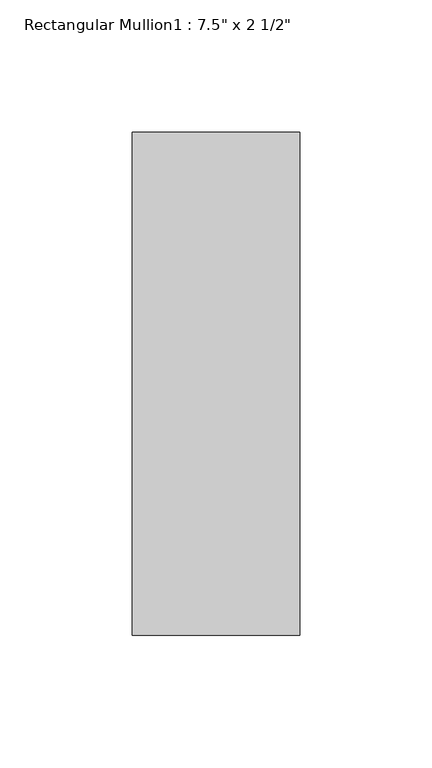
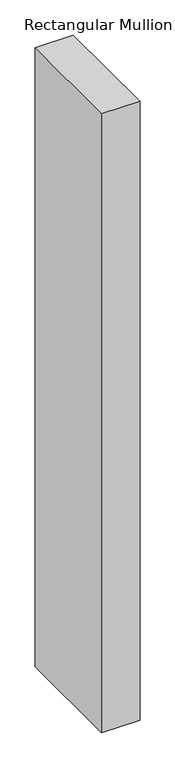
"""IFC4 building model written with IfcOpenShell, lengths in millimetres: member geometry."""

from ifc_helpers import new_model, si_unit, frame, origin, place, context, project, spatial, polyline, outline, extrude, source, transform, mapped, element, save


def member_7fc38162(model_context):
    return source(origin(), model_context, "Body", "SweptSolid", [
        extrude(outline(polyline([(-63.5, 165.1), (0.0, 165.1), (0.0, -25.4), (-63.5, -25.4), (-63.5, 165.1)])), frame((0.0, 0.0, -1079.500003), z_axis=(0.0, 0.0, 1.0), x_axis=(1.0, 0.0, 0.0)), (0.0, 0.0, 1.0), 1079.500003),
    ])


if __name__ == "__main__":
    model = new_model("IFC4")
    model_context = context("Model", 3, world=origin())
    ifc_project = project(units=[si_unit("LENGTHUNIT", "METRE", prefix="MILLI")], contexts=[model_context])
    site = spatial("IfcSite", under=ifc_project)
    building = spatial("IfcBuilding", under=site)
    placement = place(None, origin())
    member_shape = member_7fc38162(model_context)
    element("IfcMember", 1, ObjectType="Rectangular Mullion1 : 7.5\" x 2 1/2\"", at=placement, inside=building, context=model_context, shape_type="MappedRepresentation", body=[
        mapped(member_shape, transform((0.0, 0.0, 0.0), x_axis=(1.0, 0.0, 0.0), y_axis=(0.0, 1.0, 0.0), z_axis=(0.0, 0.0, 1.0))),
    ])
    save(model, "model.ifc")
